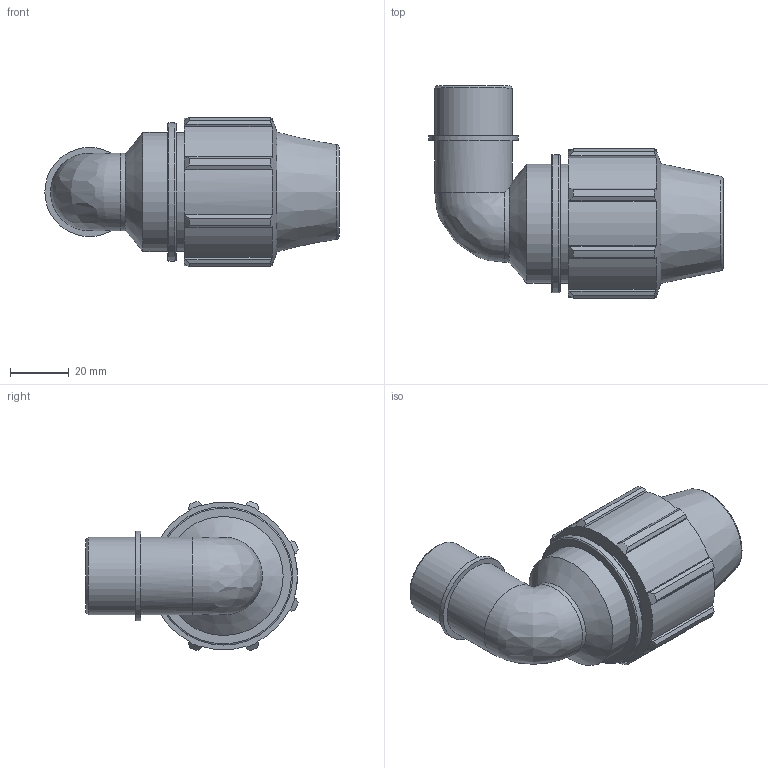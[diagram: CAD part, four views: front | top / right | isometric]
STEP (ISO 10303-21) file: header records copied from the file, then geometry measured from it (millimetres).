
FILE_DESCRIPTION(/* description */ ('PLASSON 90° ELBOW MALE ADAPTOR 1/2''''-3/4''''M'),/* implementation_level */ '2;1');
FILE_NAME(/* name */ 'C:\Dropbox\KIMPROJECTS-Inventor 2019\99-16-3568-Processing Inch\ASTM Compression 2021\0785M0\0785M0005007.ipt.stp',/* time_stamp */ '2021-08-26T12:35:29+03:00',/* author */ ('KIM'),/* organization */ (''),/* preprocessor_version */ 'ST-DEVELOPER v17.2',/* originating_system */ 'Autodesk Inventor 2019',/* authorisation */ '');
FILE_SCHEMA (('AUTOMOTIVE_DESIGN { 1 0 10303 214 3 1 1 }'));
Length unit declared in the file: inch
Products named in the file (1): 0785M0005007
Bounding box: 100.29 x 72.44 x 50.91 mm (x, y, z)
Volume: 101726 mm3; surface area: 26697.7 mm2
Topology: 1 solids, 1 shells, 86 faces, 249 edges, 170 vertices
Faces by surface type: plane 41, cylinder 26, cone 14, torus 4, bspline 1
Full cylindrical faces by diameter (mm): 18.509 x2, 21.2 x1, 26.441 x2, 30.407 x1, 40.576 x2, 47.069 x1
Entity records: 3030 total; most frequent: CARTESIAN_POINT 608, ORIENTED_EDGE 494, DIRECTION 487, EDGE_CURVE 247, AXIS2_PLACEMENT_3D 188, VERTEX_POINT 170, LINE 111, VECTOR 111
